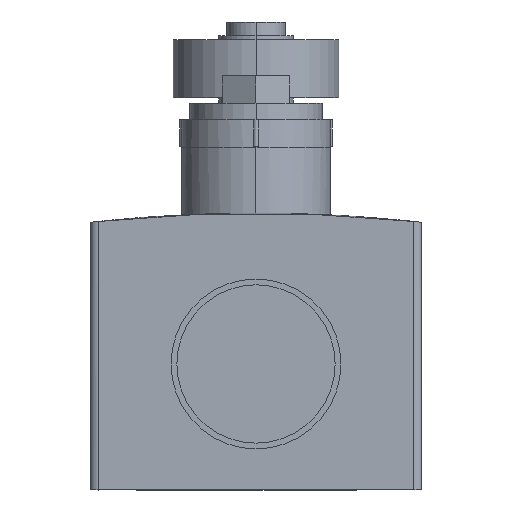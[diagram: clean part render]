
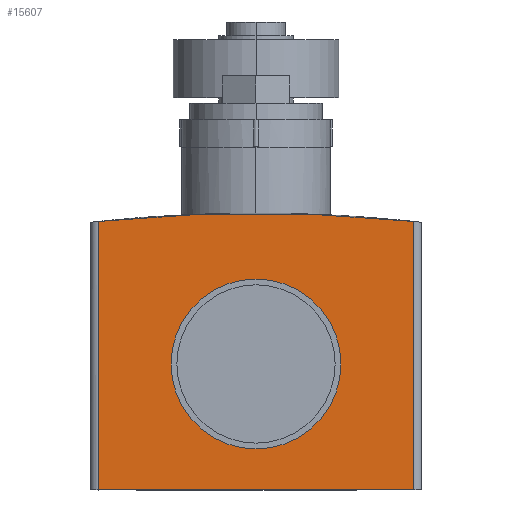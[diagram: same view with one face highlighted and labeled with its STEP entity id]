
A CAD part, front view. The second image highlights one B-rep face of the part: STEP entity #15607.
In plain terms, the highlighted planar face has unit normal (0, -1, 0).
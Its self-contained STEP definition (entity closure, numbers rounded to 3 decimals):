
#1152 = DIRECTION ( 'NONE',  ( 0., -1., 0. ) ) ;
#1172 = VERTEX_POINT ( 'NONE', #3945 ) ;
#1557 = DIRECTION ( 'NONE',  ( 0., 0., -1. ) ) ;
#1695 = AXIS2_PLACEMENT_3D ( 'NONE', #30472, #25826, #11602 ) ;
#1856 = FACE_BOUND ( 'NONE', #13771, .T. ) ;
#2431 = ORIENTED_EDGE ( 'NONE', *, *, #10076, .F. ) ;
#2594 = VERTEX_POINT ( 'NONE', #7038 ) ;
#2931 = ORIENTED_EDGE ( 'NONE', *, *, #11495, .T. ) ;
#3413 = EDGE_CURVE ( 'NONE', #1172, #13576, #7624, .T. ) ;
#3945 = CARTESIAN_POINT ( 'NONE',  ( 0., -45.5, -9.3 ) ) ;
#3998 = DIRECTION ( 'NONE',  ( 0., -1., 0. ) ) ;
#4499 = ORIENTED_EDGE ( 'NONE', *, *, #25857, .F. ) ;
#4771 = CIRCLE ( 'NONE', #16543, 10.25 ) ;
#5605 = VERTEX_POINT ( 'NONE', #9055 ) ;
#6758 = EDGE_CURVE ( 'NONE', #2594, #17381, #27528, .T. ) ;
#7038 = CARTESIAN_POINT ( 'NONE',  ( -19., -45.5, -14.25 ) ) ;
#7410 = ORIENTED_EDGE ( 'NONE', *, *, #6758, .T. ) ;
#7624 = CIRCLE ( 'NONE', #17702, 10.25 ) ;
#8092 = ORIENTED_EDGE ( 'NONE', *, *, #3413, .F. ) ;
#8261 = ORIENTED_EDGE ( 'NONE', *, *, #15232, .T. ) ;
#8417 = EDGE_LOOP ( 'NONE', ( #2931, #2431, #7410, #8261 ) ) ;
#9055 = CARTESIAN_POINT ( 'NONE',  ( -19., -45.5, 18.144 ) ) ;
#9665 = CARTESIAN_POINT ( 'NONE',  ( 19., -45.5, -14.25 ) ) ;
#10076 = EDGE_CURVE ( 'NONE', #2594, #5605, #29928, .T. ) ;
#11022 = VECTOR ( 'NONE', #16406, 1000. ) ;
#11495 = EDGE_CURVE ( 'NONE', #24842, #5605, #25112, .T. ) ;
#11602 = DIRECTION ( 'NONE',  ( 1., 0., 0. ) ) ;
#12147 = FACE_OUTER_BOUND ( 'NONE', #8417, .T. ) ;
#12297 = VECTOR ( 'NONE', #17070, 1000. ) ;
#13385 = CARTESIAN_POINT ( 'NONE',  ( 19., -45.5, -14.25 ) ) ;
#13576 = VERTEX_POINT ( 'NONE', #20148 ) ;
#13771 = EDGE_LOOP ( 'NONE', ( #8092, #4499 ) ) ;
#14800 = VECTOR ( 'NONE', #28529, 1000. ) ;
#15232 = EDGE_CURVE ( 'NONE', #17381, #24842, #21827, .T. ) ;
#15306 = CARTESIAN_POINT ( 'NONE',  ( 0., -45.5, 0.95 ) ) ;
#15607 = ADVANCED_FACE ( 'NONE', ( #12147, #1856 ), #23439, .T. ) ;
#15702 = AXIS2_PLACEMENT_3D ( 'NONE', #18172, #3998, #20553 ) ;
#15719 = DIRECTION ( 'NONE',  ( 0., -1., 0. ) ) ;
#16406 = DIRECTION ( 'NONE',  ( 0., 0., 1. ) ) ;
#16543 = AXIS2_PLACEMENT_3D ( 'NONE', #15306, #1152, #17685 ) ;
#17070 = DIRECTION ( 'NONE',  ( 1., 0., 0. ) ) ;
#17381 = VERTEX_POINT ( 'NONE', #13385 ) ;
#17685 = DIRECTION ( 'NONE',  ( 0., 0., -1. ) ) ;
#17702 = AXIS2_PLACEMENT_3D ( 'NONE', #29881, #15719, #1557 ) ;
#18172 = CARTESIAN_POINT ( 'NONE',  ( 0., -45.5, -160.85 ) ) ;
#19294 = CARTESIAN_POINT ( 'NONE',  ( 19., -45.5, 18.144 ) ) ;
#20148 = CARTESIAN_POINT ( 'NONE',  ( 0., -45.5, 11.2 ) ) ;
#20553 = DIRECTION ( 'NONE',  ( 1., 0., 0. ) ) ;
#21827 = LINE ( 'NONE', #9665, #14800 ) ;
#23439 = PLANE ( 'NONE',  #1695 ) ;
#24842 = VERTEX_POINT ( 'NONE', #19294 ) ;
#25112 = CIRCLE ( 'NONE', #15702, 180. ) ;
#25826 = DIRECTION ( 'NONE',  ( 0., -1., 0. ) ) ;
#25857 = EDGE_CURVE ( 'NONE', #13576, #1172, #4771, .T. ) ;
#27528 = LINE ( 'NONE', #28876, #12297 ) ;
#28200 = CARTESIAN_POINT ( 'NONE',  ( -19., -45.5, -14.25 ) ) ;
#28529 = DIRECTION ( 'NONE',  ( 0., 0., 1. ) ) ;
#28876 = CARTESIAN_POINT ( 'NONE',  ( 19., -45.5, -14.25 ) ) ;
#29881 = CARTESIAN_POINT ( 'NONE',  ( 0., -45.5, 0.95 ) ) ;
#29928 = LINE ( 'NONE', #28200, #11022 ) ;
#30472 = CARTESIAN_POINT ( 'NONE',  ( 19., -45.5, -14.25 ) ) ;
